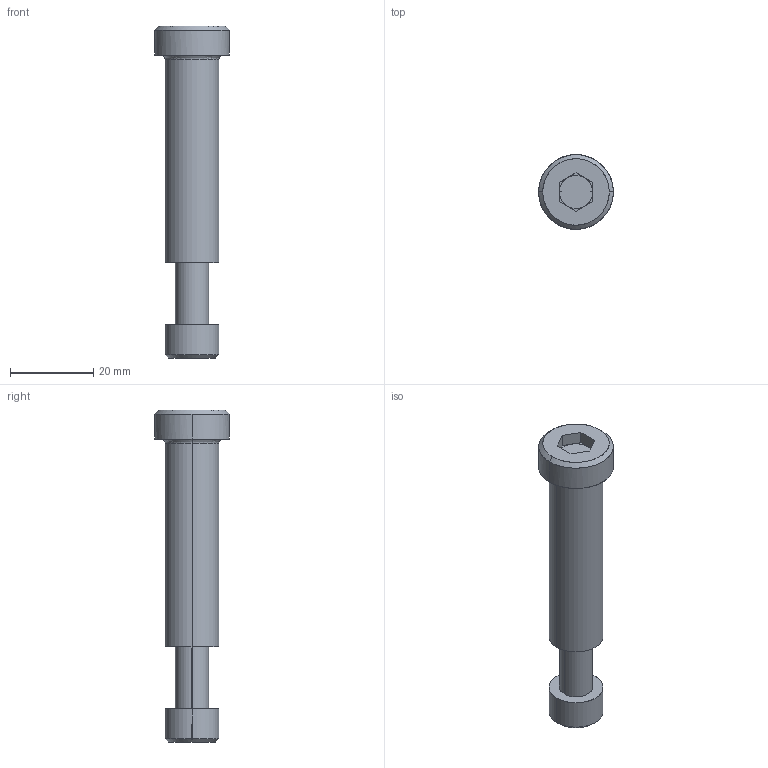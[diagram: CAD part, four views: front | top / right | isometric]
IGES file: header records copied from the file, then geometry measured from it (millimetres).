
Global section: file name: E:\UnigraphicsGraphicData\MISUMI_PRESS-PARTS\IGES\3d_sbtk13-50-30_05164_r00.igs; native system: NX V5.0; preprocessor: UGS NX IGES V5.0; author: MISUMI; date: 20110105.162502; units: millimetre
Bounding box: 18 x 18 x 80 mm (x, y, z)
Surface area: 4961.2 mm2 (no closed solid volume)
Topology: 0 solids, 0 shells, 46 faces, 264 edges, 260 vertices
Faces by surface type: bspline 46
